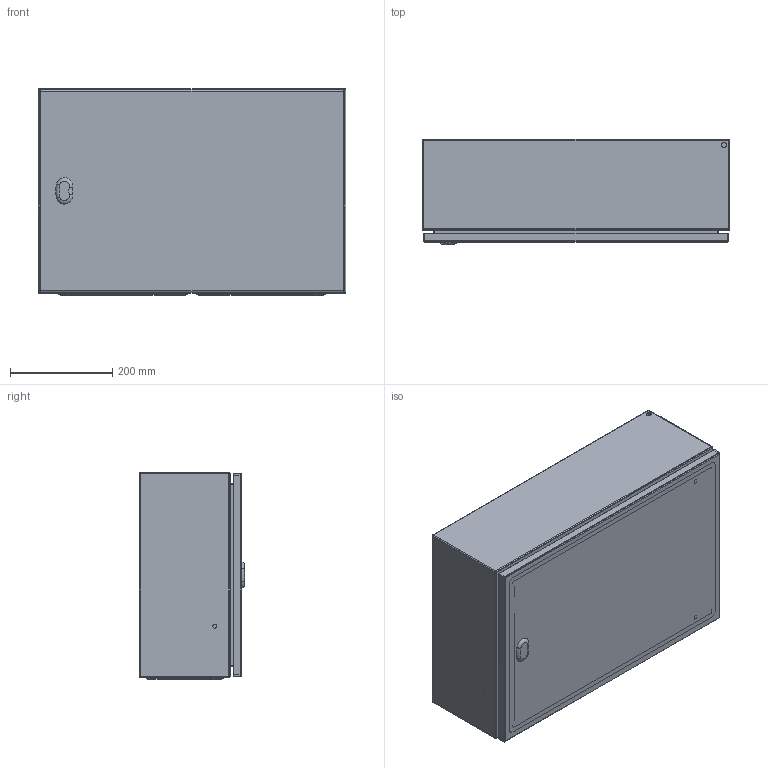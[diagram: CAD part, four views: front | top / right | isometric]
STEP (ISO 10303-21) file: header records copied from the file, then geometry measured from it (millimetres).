
FILE_DESCRIPTION(/* description */ ('STEP AP214'),/* implementation_level */ '2;1');
FILE_NAME(/* name */ 'EC060420-LOD400',/* time_stamp */ '2025-07-31T13:37:38+02:00',/* author */ ('License CC BY-ND 4.0'),/* organization */ ('CADENAS'),/* preprocessor_version */ 'ST-DEVELOPER v19.3',/* originating_system */ 'PARTsolutions',/* authorisation */ ' ');
FILE_SCHEMA (('AUTOMOTIVE_DESIGN {1 0 10303 214 3 1 1}'));
Length unit declared in the file: millimetre
Products named in the file (5): EC060420-LOD400; EC060420-LOD400_cabinet; EC060420-LOD400_door; EC060420-LOD400_bottom_plate; EC060420-LOD400_inner_plate
Assembly tree (5 placements, depth 2):
  EC060420-LOD400
    EC060420-LOD400_cabinet
    EC060420-LOD400_door
    EC060420-LOD400_bottom_plate  x2
    EC060420-LOD400_inner_plate
Bounding box: 600 x 205 x 404 mm (x, y, z)
Volume: 1988688.1 mm3; surface area: 2388184.3 mm2
Topology: 5 solids, 5 shells, 658 faces, 1538 edges, 980 vertices
Faces by surface type: cylinder 254, plane 250, cone 78, torus 76
Full cylindrical faces by diameter (mm): 1 x64, 4.5 x40, 5 x4, 5.5 x4, 6 x4, 7 x4, 8 x12, 10 x10, 14 x4
Entity records: 13867 total; most frequent: DIRECTION 2532, CARTESIAN_POINT 2242, ORIENTED_EDGE 2008, AXIS2_PLACEMENT_3D 1028, EDGE_CURVE 1004, EDGE_LOOP 858, FACE_BOUND 858, VERTEX_POINT 738
